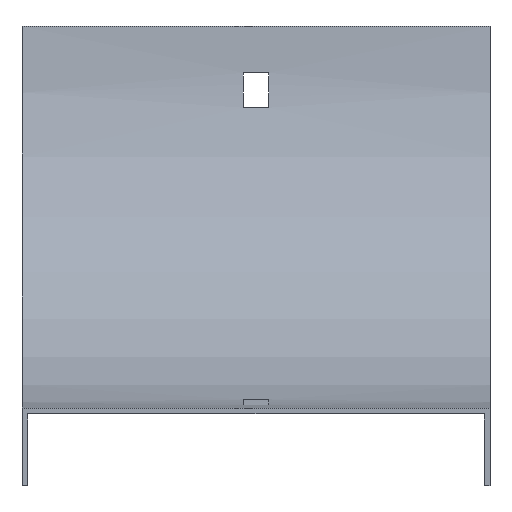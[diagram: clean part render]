
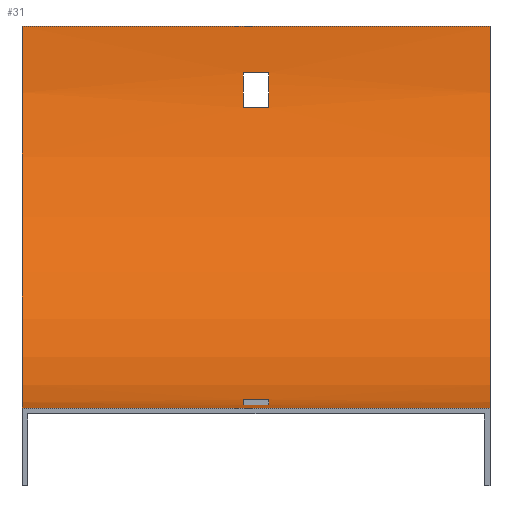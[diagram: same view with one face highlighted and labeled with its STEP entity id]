
A CAD part, top view. The second image highlights one B-rep face of the part: STEP entity #31.
In plain terms, the highlighted cylindrical face has radius 98.5 mm (diameter 197 mm), a partial arc.
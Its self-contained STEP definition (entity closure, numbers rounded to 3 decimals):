
#1 = ORIENTED_EDGE ( 'NONE', *, *, #587, .T. ) ;
#9 = VECTOR ( 'NONE', #17, 1000. ) ;
#17 = DIRECTION ( 'NONE',  ( -1., 0., 0. ) ) ;
#18 = VERTEX_POINT ( 'NONE', #173 ) ;
#28 = CARTESIAN_POINT ( 'NONE',  ( -3.25, 98.5, 0. ) ) ;
#30 = VERTEX_POINT ( 'NONE', #309 ) ;
#31 = ADVANCED_FACE ( 'NONE', ( #68, #349, #444 ), #488, .F. ) ;
#37 = CARTESIAN_POINT ( 'NONE',  ( 60.25, 98.5, 0. ) ) ;
#45 = VERTEX_POINT ( 'NONE', #529 ) ;
#49 = VERTEX_POINT ( 'NONE', #110 ) ;
#50 = VECTOR ( 'NONE', #250, 1000. ) ;
#60 = LINE ( 'NONE', #294, #50 ) ;
#67 = LINE ( 'NONE', #105, #9 ) ;
#68 = FACE_OUTER_BOUND ( 'NONE', #434, .T. ) ;
#71 = CIRCLE ( 'NONE', #410, 98.5 ) ;
#77 = DIRECTION ( 'NONE',  ( 0., 0., 1. ) ) ;
#86 = AXIS2_PLACEMENT_3D ( 'NONE', #347, #297, #150 ) ;
#105 = CARTESIAN_POINT ( 'NONE',  ( 60.25, 0., 0. ) ) ;
#110 = CARTESIAN_POINT ( 'NONE',  ( 60.25, 98.5, -98.5 ) ) ;
#122 = CARTESIAN_POINT ( 'NONE',  ( -60.25, 98.5, -98.5 ) ) ;
#128 = DIRECTION ( 'NONE',  ( 0., 0., 1. ) ) ;
#135 = CARTESIAN_POINT ( 'NONE',  ( -60.25, 0., 0. ) ) ;
#140 = LINE ( 'NONE', #374, #308 ) ;
#143 = VERTEX_POINT ( 'NONE', #226 ) ;
#144 = ORIENTED_EDGE ( 'NONE', *, *, #491, .F. ) ;
#150 = DIRECTION ( 'NONE',  ( 0., 0., 1. ) ) ;
#155 = DIRECTION ( 'NONE',  ( -1., 0., 0. ) ) ;
#159 = EDGE_CURVE ( 'NONE', #143, #412, #599, .T. ) ;
#163 = CARTESIAN_POINT ( 'NONE',  ( 3.25, 0.734, -12. ) ) ;
#166 = AXIS2_PLACEMENT_3D ( 'NONE', #516, #285, #247 ) ;
#173 = CARTESIAN_POINT ( 'NONE',  ( 3.25, 86.5, -97.766 ) ) ;
#178 = EDGE_CURVE ( 'NONE', #186, #526, #67, .T. ) ;
#186 = VERTEX_POINT ( 'NONE', #301 ) ;
#188 = EDGE_CURVE ( 'NONE', #49, #397, #60, .T. ) ;
#194 = EDGE_LOOP ( 'NONE', ( #1, #384, #492, #547 ) ) ;
#197 = LINE ( 'NONE', #565, #494 ) ;
#209 = CARTESIAN_POINT ( 'NONE',  ( 60.25, 98.5, 0. ) ) ;
#210 = DIRECTION ( 'NONE',  ( -1., 0., 0. ) ) ;
#214 = VECTOR ( 'NONE', #443, 1000. ) ;
#219 = CARTESIAN_POINT ( 'NONE',  ( 3.25, 77.5, -96.235 ) ) ;
#222 = DIRECTION ( 'NONE',  ( 1., 0., 0. ) ) ;
#226 = CARTESIAN_POINT ( 'NONE',  ( -3.25, 2.265, -21. ) ) ;
#232 = DIRECTION ( 'NONE',  ( -1., 0., 0. ) ) ;
#247 = DIRECTION ( 'NONE',  ( 0., 0., -1. ) ) ;
#250 = DIRECTION ( 'NONE',  ( -1., 0., 0. ) ) ;
#254 = ORIENTED_EDGE ( 'NONE', *, *, #543, .F. ) ;
#271 = DIRECTION ( 'NONE',  ( 0., 1., 0. ) ) ;
#280 = DIRECTION ( 'NONE',  ( -1., 0., 0. ) ) ;
#284 = EDGE_LOOP ( 'NONE', ( #505, #144, #254, #304 ) ) ;
#285 = DIRECTION ( 'NONE',  ( -1., 0., 0. ) ) ;
#294 = CARTESIAN_POINT ( 'NONE',  ( 60.25, 98.5, -98.5 ) ) ;
#296 = AXIS2_PLACEMENT_3D ( 'NONE', #37, #232, #128 ) ;
#297 = DIRECTION ( 'NONE',  ( 1., 0., 0. ) ) ;
#299 = DIRECTION ( 'NONE',  ( 0., 0., 1. ) ) ;
#301 = CARTESIAN_POINT ( 'NONE',  ( 60.25, 0., 0. ) ) ;
#304 = ORIENTED_EDGE ( 'NONE', *, *, #365, .F. ) ;
#308 = VECTOR ( 'NONE', #280, 1000. ) ;
#309 = CARTESIAN_POINT ( 'NONE',  ( -3.25, 86.5, -97.766 ) ) ;
#317 = DIRECTION ( 'NONE',  ( -1., 0., 0. ) ) ;
#319 = AXIS2_PLACEMENT_3D ( 'NONE', #427, #210, #486 ) ;
#321 = ORIENTED_EDGE ( 'NONE', *, *, #540, .T. ) ;
#324 = CARTESIAN_POINT ( 'NONE',  ( 60.25, 2.265, -21. ) ) ;
#328 = VECTOR ( 'NONE', #406, 1000. ) ;
#347 = CARTESIAN_POINT ( 'NONE',  ( 3.25, 98.5, 0. ) ) ;
#349 = FACE_BOUND ( 'NONE', #194, .T. ) ;
#350 = CIRCLE ( 'NONE', #296, 98.5 ) ;
#357 = LINE ( 'NONE', #590, #214 ) ;
#363 = CARTESIAN_POINT ( 'NONE',  ( 3.25, 2.265, -21. ) ) ;
#365 = EDGE_CURVE ( 'NONE', #45, #413, #357, .T. ) ;
#367 = CARTESIAN_POINT ( 'NONE',  ( -3.25, 0.734, -12. ) ) ;
#371 = ORIENTED_EDGE ( 'NONE', *, *, #178, .F. ) ;
#374 = CARTESIAN_POINT ( 'NONE',  ( 60.25, 86.5, -97.766 ) ) ;
#375 = EDGE_CURVE ( 'NONE', #30, #45, #71, .T. ) ;
#384 = ORIENTED_EDGE ( 'NONE', *, *, #422, .T. ) ;
#389 = DIRECTION ( 'NONE',  ( -1., 0., 0. ) ) ;
#397 = VERTEX_POINT ( 'NONE', #122 ) ;
#400 = EDGE_CURVE ( 'NONE', #49, #186, #350, .T. ) ;
#406 = DIRECTION ( 'NONE',  ( 1., 0., 0. ) ) ;
#410 = AXIS2_PLACEMENT_3D ( 'NONE', #495, #317, #271 ) ;
#412 = VERTEX_POINT ( 'NONE', #363 ) ;
#413 = VERTEX_POINT ( 'NONE', #219 ) ;
#416 = ORIENTED_EDGE ( 'NONE', *, *, #188, .T. ) ;
#418 = CIRCLE ( 'NONE', #166, 98.5 ) ;
#422 = EDGE_CURVE ( 'NONE', #448, #143, #453, .T. ) ;
#427 = CARTESIAN_POINT ( 'NONE',  ( -60.25, 98.5, 0. ) ) ;
#434 = EDGE_LOOP ( 'NONE', ( #321, #371, #465, #416 ) ) ;
#443 = DIRECTION ( 'NONE',  ( 1., 0., 0. ) ) ;
#444 = FACE_BOUND ( 'NONE', #284, .T. ) ;
#448 = VERTEX_POINT ( 'NONE', #367 ) ;
#453 = CIRCLE ( 'NONE', #528, 98.5 ) ;
#462 = AXIS2_PLACEMENT_3D ( 'NONE', #209, #389, #299 ) ;
#465 = ORIENTED_EDGE ( 'NONE', *, *, #400, .F. ) ;
#474 = CIRCLE ( 'NONE', #86, 98.5 ) ;
#486 = DIRECTION ( 'NONE',  ( 0., 0., 1. ) ) ;
#488 = CYLINDRICAL_SURFACE ( 'NONE', #462, 98.5 ) ;
#491 = EDGE_CURVE ( 'NONE', #18, #30, #140, .T. ) ;
#492 = ORIENTED_EDGE ( 'NONE', *, *, #159, .T. ) ;
#494 = VECTOR ( 'NONE', #155, 1000. ) ;
#495 = CARTESIAN_POINT ( 'NONE',  ( -3.25, 98.5, 0. ) ) ;
#502 = CIRCLE ( 'NONE', #319, 98.5 ) ;
#505 = ORIENTED_EDGE ( 'NONE', *, *, #375, .F. ) ;
#516 = CARTESIAN_POINT ( 'NONE',  ( 3.25, 98.5, 0. ) ) ;
#525 = EDGE_CURVE ( 'NONE', #412, #536, #418, .T. ) ;
#526 = VERTEX_POINT ( 'NONE', #135 ) ;
#528 = AXIS2_PLACEMENT_3D ( 'NONE', #28, #222, #77 ) ;
#529 = CARTESIAN_POINT ( 'NONE',  ( -3.25, 77.5, -96.235 ) ) ;
#536 = VERTEX_POINT ( 'NONE', #163 ) ;
#540 = EDGE_CURVE ( 'NONE', #397, #526, #502, .T. ) ;
#543 = EDGE_CURVE ( 'NONE', #413, #18, #474, .T. ) ;
#547 = ORIENTED_EDGE ( 'NONE', *, *, #525, .T. ) ;
#565 = CARTESIAN_POINT ( 'NONE',  ( 60.25, 0.734, -12. ) ) ;
#587 = EDGE_CURVE ( 'NONE', #536, #448, #197, .T. ) ;
#590 = CARTESIAN_POINT ( 'NONE',  ( 60.25, 77.5, -96.235 ) ) ;
#599 = LINE ( 'NONE', #324, #328 ) ;
